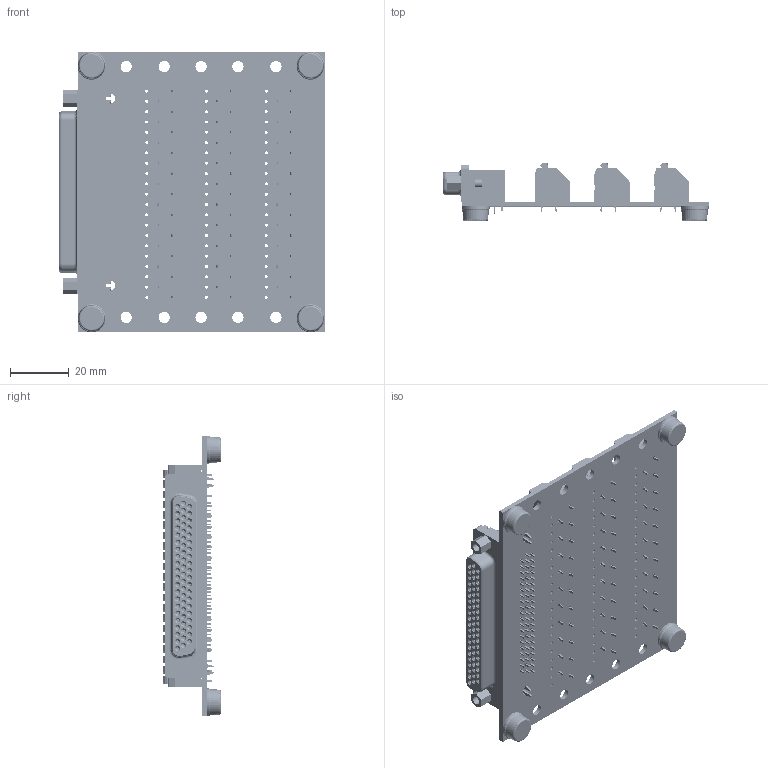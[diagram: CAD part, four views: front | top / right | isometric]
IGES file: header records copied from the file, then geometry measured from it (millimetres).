
Start section: SolidWorks IGES file using analytic representation for surfaces
Global section: file name: W:\end-user\products\brk\brkg62hdf\3dmodel\rev_a\render\brkg62hdf-r-ft_rev_a.igs; native system: SolidWorks 2018; preprocessor: SolidWorks 2018; author: leviroy; date: 210823.125959; units: inch
Bounding box: 89.97 x 19.5 x 95.25 mm (x, y, z)
Surface area: 40862.5 mm2 (no closed solid volume)
Topology: 0 solids, 0 shells, 14197 faces, 114377 edges, 114377 vertices
Faces by surface type: bspline 11452, revolution 2745
